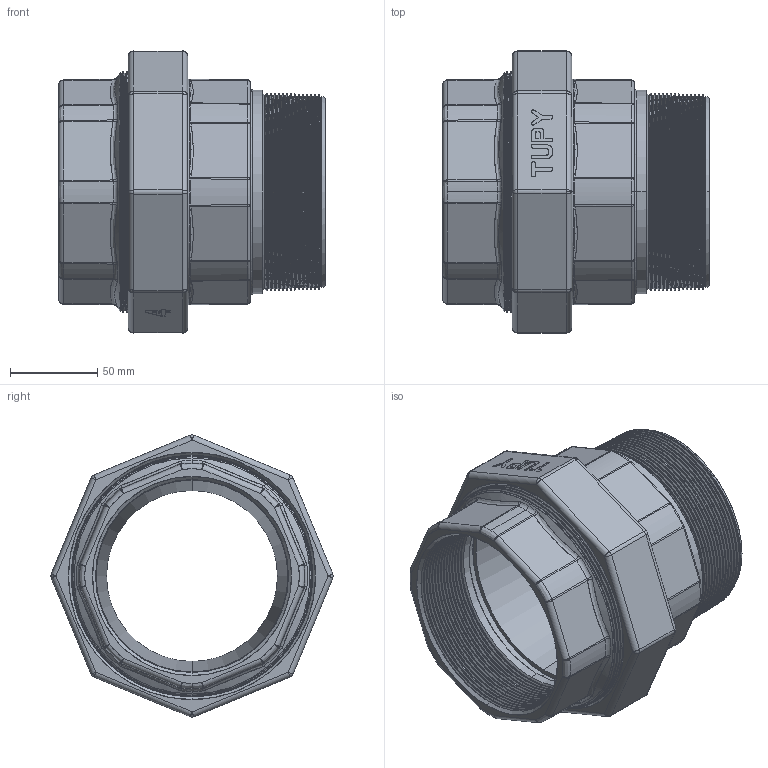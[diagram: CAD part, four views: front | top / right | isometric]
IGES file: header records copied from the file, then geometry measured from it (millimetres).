
Start section: SolidWorks IGES file using analytic representation for surfaces
Global section: file name: C:\Users\Joel Rosa\Desktop\Tubulação\12-65-X\12-65-014.IGS; native system: SolidWorks 2011; preprocessor: SolidWorks 2011; author: Joel Rosa; date: 130721.174547; units: millimetre
Bounding box: 153 x 161.86 x 161.86 mm (x, y, z)
Surface area: 201683.7 mm2 (no closed solid volume)
Topology: 0 solids, 0 shells, 881 faces, 6276 edges, 6270 vertices
Faces by surface type: bspline 550, revolution 331
